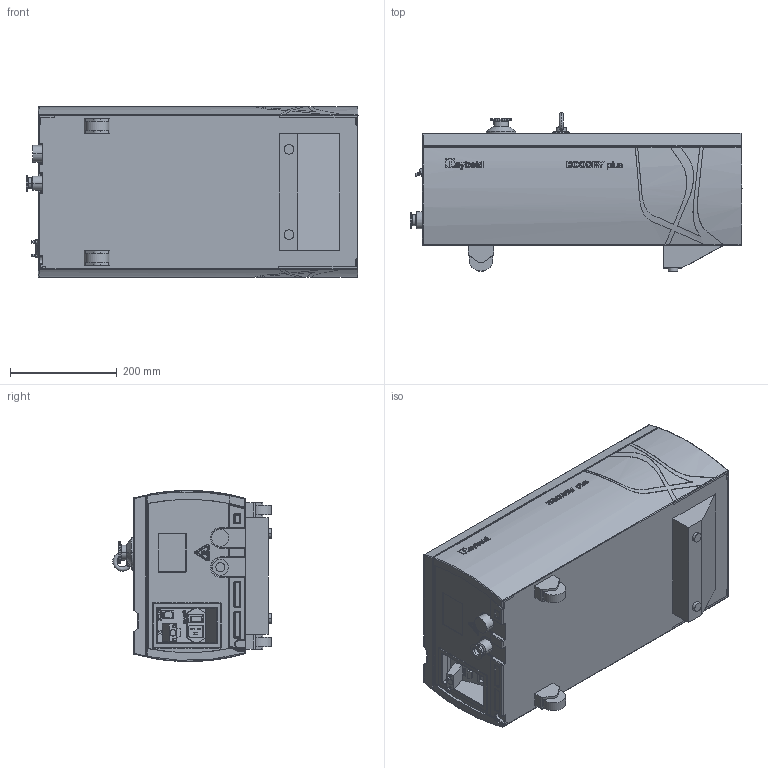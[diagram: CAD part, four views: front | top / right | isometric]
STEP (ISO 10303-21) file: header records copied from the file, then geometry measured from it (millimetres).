
FILE_DESCRIPTION((''),'2;1');
FILE_NAME('853069512_Y06_000','2017-02-01T',('91072'),('Copyright by Leybold GmbH'),'PRO/ENGINEER BY PARAMETRIC TECHNOLOGY CORPORATION, 2015280','PRO/ENGINEER BY PARAMETRIC TECHNOLOGY CORPORATION, 2015280','');
FILE_SCHEMA(('AUTOMOTIVE_DESIGN { 1 0 10303 214 1 1 1 1 }'));
Products named in the file (1): 853069512_Y06_000
Bounding box: 623.3 x 297.5 x 321 mm (x, y, z)
Volume: 39136679.4 mm3; surface area: 819191.3 mm2
Topology: 1 solids, 2 shells, 1455 faces, 3819 edges, 2437 vertices
Faces by surface type: plane 638, cylinder 334, extrusion 216, bspline 108, torus 71, sphere 54, cone 34
Entity records: 73344 total; most frequent: CARTESIAN_POINT 28742, ORIENTED_EDGE 7526, DIRECTION 6211, EDGE_CURVE 3763, VERTEX_POINT 2437, VECTOR 2183, AXIS2_PLACEMENT_3D 2014, LINE 1967
